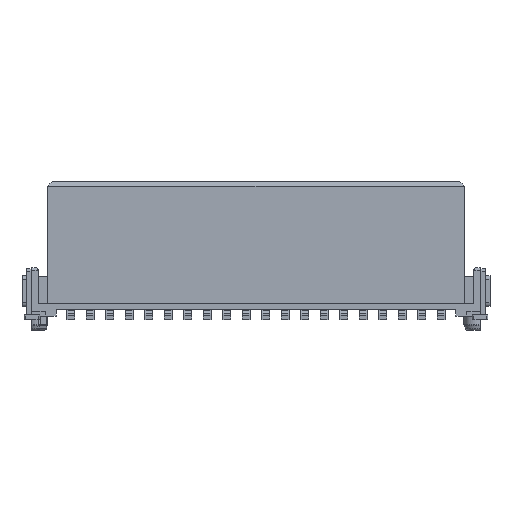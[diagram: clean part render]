
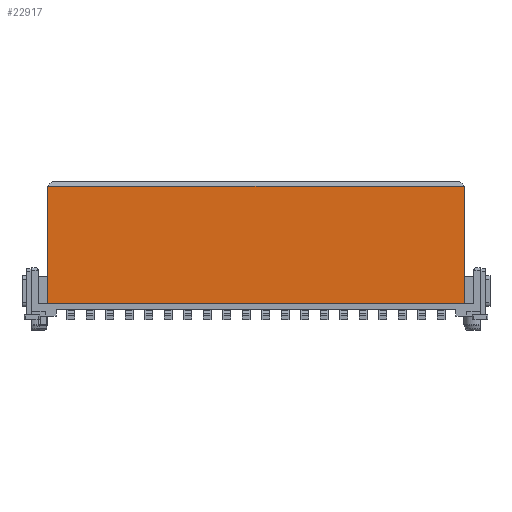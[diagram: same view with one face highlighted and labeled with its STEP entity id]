
A CAD part, front view. The second image highlights one B-rep face of the part: STEP entity #22917.
In plain terms, the highlighted planar face has unit normal (0, -1, 0).
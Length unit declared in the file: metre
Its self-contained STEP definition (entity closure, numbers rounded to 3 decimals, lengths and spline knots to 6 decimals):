
#54=PLANE('',#28150);
#1303=LINE('',#37188,#3919);
#1309=LINE('',#37199,#3925);
#1313=LINE('',#37207,#3929);
#1314=LINE('',#37209,#3930);
#3919=VECTOR('',#30457,1.);
#3925=VECTOR('',#30471,1.);
#3929=VECTOR('',#30477,1.);
#3930=VECTOR('',#30478,1.);
#6762=ORIENTED_EDGE('',*,*,#13297,.T.);
#6763=ORIENTED_EDGE('',*,*,#13301,.T.);
#6764=ORIENTED_EDGE('',*,*,#13302,.T.);
#6765=ORIENTED_EDGE('',*,*,#13291,.T.);
#13291=EDGE_CURVE('',#16565,#16564,#1303,.T.);
#13297=EDGE_CURVE('',#16564,#16566,#1309,.T.);
#13301=EDGE_CURVE('',#16566,#16569,#1313,.T.);
#13302=EDGE_CURVE('',#16569,#16565,#1314,.T.);
#16564=VERTEX_POINT('',#37187);
#16565=VERTEX_POINT('',#37189);
#16566=VERTEX_POINT('',#37200);
#16569=VERTEX_POINT('',#37208);
#19220=EDGE_LOOP('',(#6762,#6763,#6764,#6765));
#20602=FACE_BOUND('',#19220,.T.);
#22917=ADVANCED_FACE('',(#20602),#54,.T.);
#28150=AXIS2_PLACEMENT_3D('',#37206,#30475,#30476);
#30457=DIRECTION('',(0.,0.,-1.));
#30471=DIRECTION('',(1.,0.,0.));
#30475=DIRECTION('',(0.,-1.,0.));
#30476=DIRECTION('',(0.,0.,-1.));
#30477=DIRECTION('',(0.,0.,1.));
#30478=DIRECTION('',(-1.,0.,0.));
#37187=CARTESIAN_POINT('',(-0.013575,-0.001525,0.001028));
#37188=CARTESIAN_POINT('',(-0.013575,-0.001525,0.008678));
#37189=CARTESIAN_POINT('',(-0.013575,-0.001525,0.008678));
#37199=CARTESIAN_POINT('',(-0.013775,-0.001525,0.001028));
#37200=CARTESIAN_POINT('',(0.013575,-0.001525,0.001028));
#37206=CARTESIAN_POINT('',(-0.013775,-0.001525,0.008878));
#37207=CARTESIAN_POINT('',(0.013575,-0.001525,0.001028));
#37208=CARTESIAN_POINT('',(0.013575,-0.001525,0.008678));
#37209=CARTESIAN_POINT('',(0.013575,-0.001525,0.008678));
